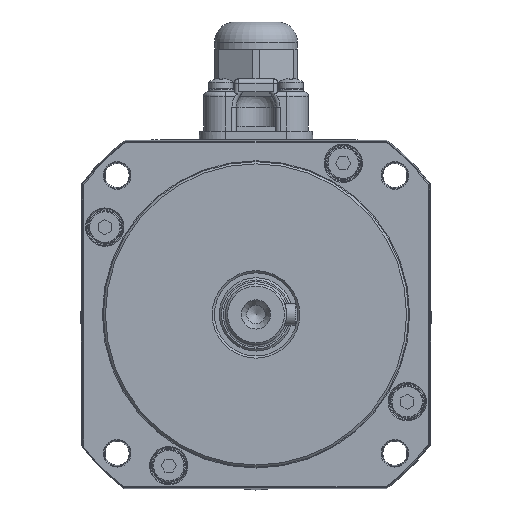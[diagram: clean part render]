
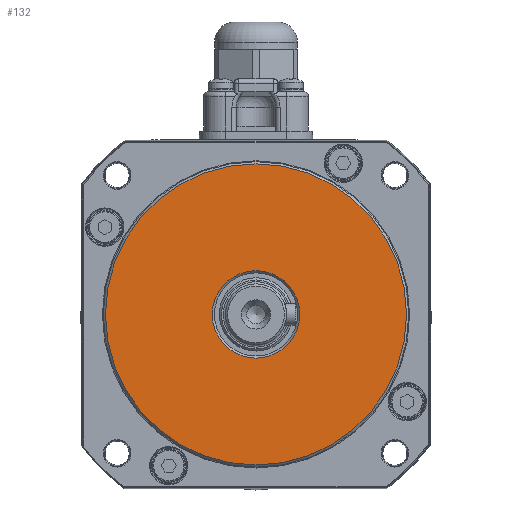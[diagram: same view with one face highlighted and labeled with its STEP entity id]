
A CAD part, front view. The second image highlights one B-rep face of the part: STEP entity #132.
In plain terms, the highlighted planar face has unit normal (0, -1, 0).
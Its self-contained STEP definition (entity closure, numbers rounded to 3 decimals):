
#132=ADVANCED_FACE('',(#1788,#1789),#1790,.T.);
#1788=FACE_BOUND('',#5239,.T.);
#1789=FACE_OUTER_BOUND('',#5240,.T.);
#1790=PLANE('',#5241);
#5239=EDGE_LOOP('',(#11694));
#5240=EDGE_LOOP('',(#11695));
#5241=AXIS2_PLACEMENT_3D('',#11696,#11697,#11698);
#11694=ORIENTED_EDGE('',*,*,#23740,.T.);
#11695=ORIENTED_EDGE('',*,*,#23814,.T.);
#11696=CARTESIAN_POINT('',(0.,-108.0,0.));
#11697=DIRECTION('',(0.,-1.0,0.));
#11698=DIRECTION('',(-1.0,0.,0.0));
#23740=EDGE_CURVE('',#27604,#27604,#27605,.T.);
#23814=EDGE_CURVE('',#27748,#27748,#27749,.T.);
#27604=VERTEX_POINT('',#33589);
#27605=CIRCLE('',#33590,10.018);
#27748=VERTEX_POINT('',#33762);
#27749=CIRCLE('',#33763,34.5);
#33589=CARTESIAN_POINT('',(-10.018,-108.0,0.));
#33590=AXIS2_PLACEMENT_3D('',#43608,#43609,#43610);
#33762=CARTESIAN_POINT('',(-34.5,-108.0,0.));
#33763=AXIS2_PLACEMENT_3D('',#43772,#43773,#43774);
#43608=CARTESIAN_POINT('',(0.,-108.0,0.));
#43609=DIRECTION('',(0.,1.0,0.));
#43610=DIRECTION('',(-1.0,0.,0.));
#43772=CARTESIAN_POINT('',(0.,-108.0,0.));
#43773=DIRECTION('',(0.,-1.0,0.));
#43774=DIRECTION('',(-1.0,0.,0.));
